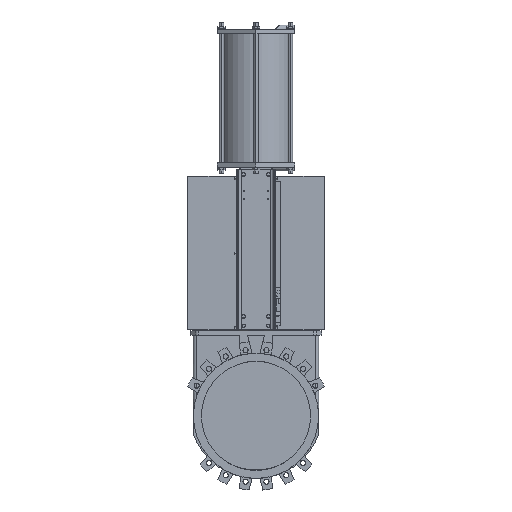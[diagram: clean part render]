
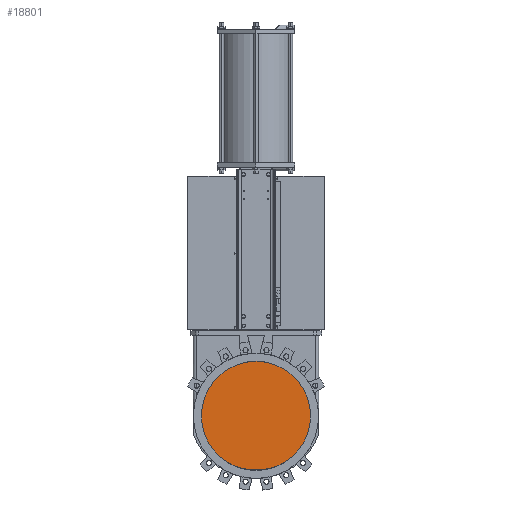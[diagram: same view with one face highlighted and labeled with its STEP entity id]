
A CAD part, top view. The second image highlights one B-rep face of the part: STEP entity #18801.
In plain terms, the highlighted planar face has unit normal (0, 0, 1).
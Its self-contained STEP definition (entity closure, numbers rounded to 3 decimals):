
#4772 = VERTEX_POINT ( 'NONE', #12475 ) ;
#4773 = EDGE_CURVE ( 'NONE', #4772, #4831, #12469, .T. ) ;
#4775 = EDGE_CURVE ( 'NONE', #4778, #40818, #12527, .T. ) ;
#4778 = VERTEX_POINT ( 'NONE', #12523 ) ;
#4817 = EDGE_CURVE ( 'NONE', #4827, #4822, #12624, .T. ) ;
#4822 = VERTEX_POINT ( 'NONE', #12618 ) ;
#4827 = VERTEX_POINT ( 'NONE', #12608 ) ;
#4831 = VERTEX_POINT ( 'NONE', #12602 ) ;
#4868 = VERTEX_POINT ( 'NONE', #12675 ) ;
#4882 = VERTEX_POINT ( 'NONE', #12715 ) ;
#4900 = EDGE_CURVE ( 'NONE', #4868, #4882, #12742, .T. ) ;
#5215 = VERTEX_POINT ( 'NONE', #13381 ) ;
#5238 = EDGE_CURVE ( 'NONE', #4831, #5215, #13399, .T. ) ;
#6115 = EDGE_CURVE ( 'NONE', #5215, #4868, #15643, .T. ) ;
#12465 = DIRECTION ( 'NONE',  ( 1., 0., 0. ) ) ;
#12466 = DIRECTION ( 'NONE',  ( 0., 0., 1. ) ) ;
#12467 = CARTESIAN_POINT ( 'NONE',  ( 0., 30., 6. ) ) ;
#12468 = AXIS2_PLACEMENT_3D ( 'NONE', #12467, #12466, #12465 ) ;
#12469 = CIRCLE ( 'NONE', #12468, 281.5 ) ;
#12470 = CARTESIAN_POINT ( 'NONE',  ( 0., 0., 6. ) ) ;
#12475 = CARTESIAN_POINT ( 'NONE',  ( -183.622, -183.366, 6. ) ) ;
#12523 = CARTESIAN_POINT ( 'NONE',  ( 264.5, 106.136, 6. ) ) ;
#12524 = DIRECTION ( 'NONE',  ( 1., 0., 0. ) ) ;
#12525 = DIRECTION ( 'NONE',  ( 0., 0., 1. ) ) ;
#12526 = AXIS2_PLACEMENT_3D ( 'NONE', #12470, #12525, #12524 ) ;
#12527 = CIRCLE ( 'NONE', #12526, 285. ) ;
#12573 = CARTESIAN_POINT ( 'NONE',  ( 0., 30., 6. ) ) ;
#12602 = CARTESIAN_POINT ( 'NONE',  ( 183.622, -183.366, 6. ) ) ;
#12608 = CARTESIAN_POINT ( 'NONE',  ( -264.5, -66.343, 6. ) ) ;
#12618 = CARTESIAN_POINT ( 'NONE',  ( -188.002, -179.517, 6. ) ) ;
#12621 = DIRECTION ( 'NONE',  ( 1., 0., 0. ) ) ;
#12622 = DIRECTION ( 'NONE',  ( 0., 0., 1. ) ) ;
#12623 = AXIS2_PLACEMENT_3D ( 'NONE', #12573, #12622, #12621 ) ;
#12624 = CIRCLE ( 'NONE', #12623, 281.5 ) ;
#12675 = CARTESIAN_POINT ( 'NONE',  ( 188.002, -179.517, 6. ) ) ;
#12715 = CARTESIAN_POINT ( 'NONE',  ( 264.5, -66.343, 6. ) ) ;
#12739 = DIRECTION ( 'NONE',  ( 1., 0., 0. ) ) ;
#12740 = DIRECTION ( 'NONE',  ( 0., 0., 1. ) ) ;
#12741 = AXIS2_PLACEMENT_3D ( 'NONE', #12748, #12740, #12739 ) ;
#12742 = CIRCLE ( 'NONE', #12741, 281.5 ) ;
#12748 = CARTESIAN_POINT ( 'NONE',  ( 0., 30., 6. ) ) ;
#13381 = CARTESIAN_POINT ( 'NONE',  ( 187.737, -179.252, 6. ) ) ;
#13396 = DIRECTION ( 'NONE',  ( 0.707, 0.707, 0. ) ) ;
#13397 = VECTOR ( 'NONE', #13396, 1000. ) ;
#13398 = CARTESIAN_POINT ( 'NONE',  ( 198.494, -168.494, 6. ) ) ;
#13399 = LINE ( 'NONE', #13398, #13397 ) ;
#15274 = EDGE_CURVE ( 'NONE', #4827, #40818, #17993, .T. ) ;
#15302 = ORIENTED_EDGE ( 'NONE', *, *, #15274, .F. ) ;
#15324 = ORIENTED_EDGE ( 'NONE', *, *, #4775, .T. ) ;
#15386 = ORIENTED_EDGE ( 'NONE', *, *, #15389, .T. ) ;
#15389 = EDGE_CURVE ( 'NONE', #4882, #4778, #18209, .T. ) ;
#15391 = VERTEX_POINT ( 'NONE', #18201 ) ;
#15405 = EDGE_LOOP ( 'NONE', ( #15386, #15324, #15302, #22181, #22183, #22158, #21879, #21581, #21596, #21599 ) ) ;
#15640 = DIRECTION ( 'NONE',  ( 0.707, -0.707, 0. ) ) ;
#15641 = VECTOR ( 'NONE', #15640, 1000. ) ;
#15642 = CARTESIAN_POINT ( 'NONE',  ( -10.757, 19.243, 6. ) ) ;
#15643 = LINE ( 'NONE', #15642, #15641 ) ;
#17990 = DIRECTION ( 'NONE',  ( 0., 1., 0. ) ) ;
#17991 = VECTOR ( 'NONE', #17990, 1000. ) ;
#17992 = CARTESIAN_POINT ( 'NONE',  ( -264.5, -344.538, 6. ) ) ;
#17993 = LINE ( 'NONE', #17992, #17991 ) ;
#17994 = EDGE_CURVE ( 'NONE', #4772, #15391, #19022, .T. ) ;
#18201 = CARTESIAN_POINT ( 'NONE',  ( -187.737, -179.252, 6. ) ) ;
#18204 = DIRECTION ( 'NONE',  ( 0., 1., 0. ) ) ;
#18206 = VECTOR ( 'NONE', #18204, 1000. ) ;
#18208 = CARTESIAN_POINT ( 'NONE',  ( 264.5, -344.538, 6. ) ) ;
#18209 = LINE ( 'NONE', #18208, #18206 ) ;
#18801 = ADVANCED_FACE ( 'NONE', ( #19204 ), #19207, .T. ) ;
#19019 = DIRECTION ( 'NONE',  ( -0.707, 0.707, 0. ) ) ;
#19020 = VECTOR ( 'NONE', #19019, 1000. ) ;
#19021 = CARTESIAN_POINT ( 'NONE',  ( -198.494, -168.494, 6. ) ) ;
#19022 = LINE ( 'NONE', #19021, #19020 ) ;
#19199 = DIRECTION ( 'NONE',  ( 1., 0., 0. ) ) ;
#19200 = DIRECTION ( 'NONE',  ( 0., 0., 1. ) ) ;
#19202 = CARTESIAN_POINT ( 'NONE',  ( -264.5, -344.538, 6. ) ) ;
#19203 = AXIS2_PLACEMENT_3D ( 'NONE', #19202, #19200, #19199 ) ;
#19204 = FACE_OUTER_BOUND ( 'NONE', #15405, .T. ) ;
#19207 = PLANE ( 'NONE',  #19203 ) ;
#19648 = DIRECTION ( 'NONE',  ( -0.707, -0.707, 0. ) ) ;
#19649 = VECTOR ( 'NONE', #19648, 1000. ) ;
#19650 = CARTESIAN_POINT ( 'NONE',  ( 10.757, 19.243, 6. ) ) ;
#19651 = LINE ( 'NONE', #19650, #19649 ) ;
#20710 = EDGE_CURVE ( 'NONE', #15391, #4822, #19651, .T. ) ;
#21581 = ORIENTED_EDGE ( 'NONE', *, *, #5238, .T. ) ;
#21596 = ORIENTED_EDGE ( 'NONE', *, *, #6115, .T. ) ;
#21599 = ORIENTED_EDGE ( 'NONE', *, *, #4900, .T. ) ;
#21879 = ORIENTED_EDGE ( 'NONE', *, *, #4773, .T. ) ;
#22158 = ORIENTED_EDGE ( 'NONE', *, *, #17994, .F. ) ;
#22181 = ORIENTED_EDGE ( 'NONE', *, *, #4817, .T. ) ;
#22183 = ORIENTED_EDGE ( 'NONE', *, *, #20710, .F. ) ;
#24819 = CARTESIAN_POINT ( 'NONE',  ( -264.5, 106.136, 6. ) ) ;
#40818 = VERTEX_POINT ( 'NONE', #24819 ) ;
